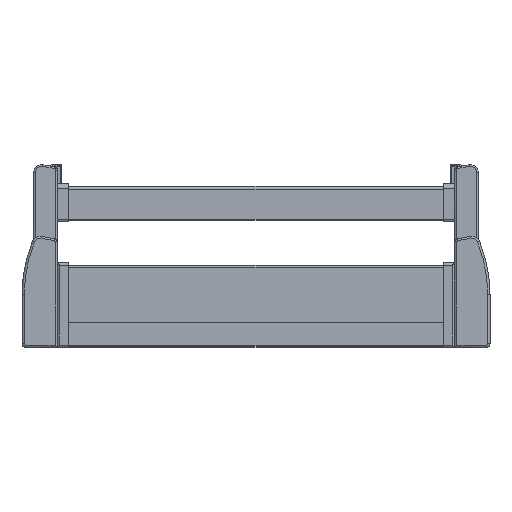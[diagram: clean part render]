
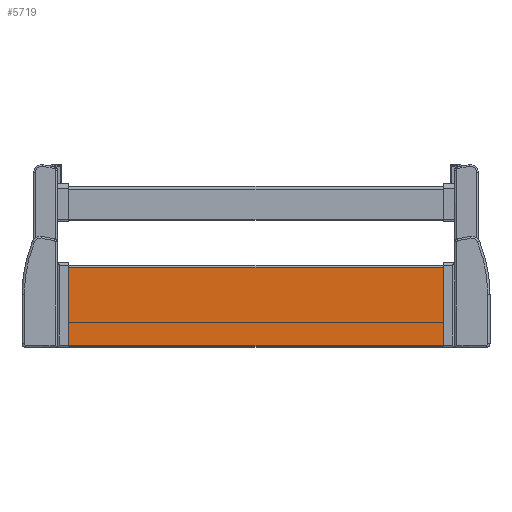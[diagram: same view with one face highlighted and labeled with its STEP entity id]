
A CAD part, top view. The second image highlights one B-rep face of the part: STEP entity #5719.
In plain terms, the highlighted planar face has unit normal (0, 0, 1).
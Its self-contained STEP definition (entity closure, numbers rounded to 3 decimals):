
#2468 = CARTESIAN_POINT ( 'NONE',  ( 163.8, -92.5, 1.4 ) ) ;
#2469 = DIRECTION ( 'NONE',  ( 0., 1., 0. ) ) ;
#2470 = VECTOR ( 'NONE', #2469, 1000. ) ;
#2471 = CARTESIAN_POINT ( 'NONE',  ( 163.8, -92.5, 1.4 ) ) ;
#2472 = LINE ( 'NONE', #2471, #2470 ) ;
#2473 = CARTESIAN_POINT ( 'NONE',  ( 163.8, -23., 1.4 ) ) ;
#3248 = DIRECTION ( 'NONE',  ( 0., 1., 0. ) ) ;
#3249 = DIRECTION ( 'NONE',  ( 0., 0., -1. ) ) ;
#3250 = CARTESIAN_POINT ( 'NONE',  ( 237.556, -92.5, 1.4 ) ) ;
#3251 = AXIS2_PLACEMENT_3D ( 'NONE', #3250, #3249, #3248 ) ;
#3252 = PLANE ( 'NONE',  #3251 ) ;
#3253 = FACE_OUTER_BOUND ( 'NONE', #5720, .T. ) ;
#3259 = CARTESIAN_POINT ( 'NONE',  ( -163.8, -92.5, 1.4 ) ) ;
#3260 = DIRECTION ( 'NONE',  ( -1., 0., 0. ) ) ;
#3261 = VECTOR ( 'NONE', #3260, 1000. ) ;
#3262 = CARTESIAN_POINT ( 'NONE',  ( 237.556, -92.5, 1.4 ) ) ;
#3263 = LINE ( 'NONE', #3262, #3261 ) ;
#3330 = DIRECTION ( 'NONE',  ( 0., 1., 0. ) ) ;
#3331 = VECTOR ( 'NONE', #3330, 1000. ) ;
#3332 = CARTESIAN_POINT ( 'NONE',  ( -163.8, -92.5, 1.4 ) ) ;
#3333 = LINE ( 'NONE', #3332, #3331 ) ;
#3334 = CARTESIAN_POINT ( 'NONE',  ( -163.8, -23., 1.4 ) ) ;
#3335 = DIRECTION ( 'NONE',  ( -1., 0., 0. ) ) ;
#3336 = VECTOR ( 'NONE', #3335, 1000. ) ;
#3337 = CARTESIAN_POINT ( 'NONE',  ( 237.556, -23., 1.4 ) ) ;
#3338 = LINE ( 'NONE', #3337, #3336 ) ;
#5438 = VERTEX_POINT ( 'NONE', #2473 ) ;
#5440 = EDGE_CURVE ( 'NONE', #5441, #5438, #2472, .T. ) ;
#5441 = VERTEX_POINT ( 'NONE', #2468 ) ;
#5715 = EDGE_CURVE ( 'NONE', #5441, #5716, #3263, .T. ) ;
#5716 = VERTEX_POINT ( 'NONE', #3259 ) ;
#5719 = ADVANCED_FACE ( 'NONE', ( #3253 ), #3252, .F. ) ;
#5720 = EDGE_LOOP ( 'NONE', ( #5721, #5744, #5745, #5748 ) ) ;
#5721 = ORIENTED_EDGE ( 'NONE', *, *, #5715, .F. ) ;
#5744 = ORIENTED_EDGE ( 'NONE', *, *, #5440, .T. ) ;
#5745 = ORIENTED_EDGE ( 'NONE', *, *, #5746, .T. ) ;
#5746 = EDGE_CURVE ( 'NONE', #5438, #5747, #3338, .T. ) ;
#5747 = VERTEX_POINT ( 'NONE', #3334 ) ;
#5748 = ORIENTED_EDGE ( 'NONE', *, *, #5749, .F. ) ;
#5749 = EDGE_CURVE ( 'NONE', #5716, #5747, #3333, .T. ) ;
